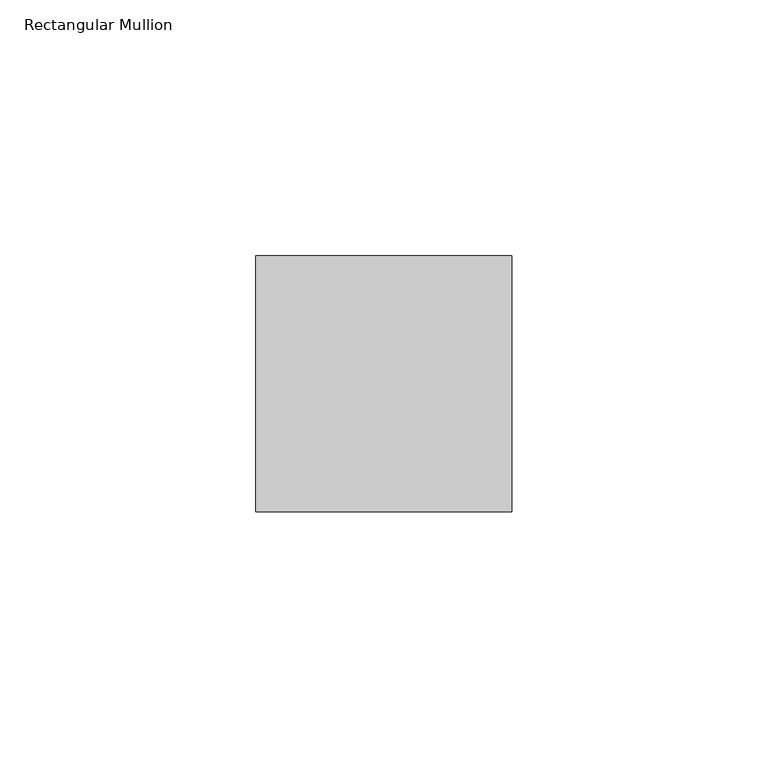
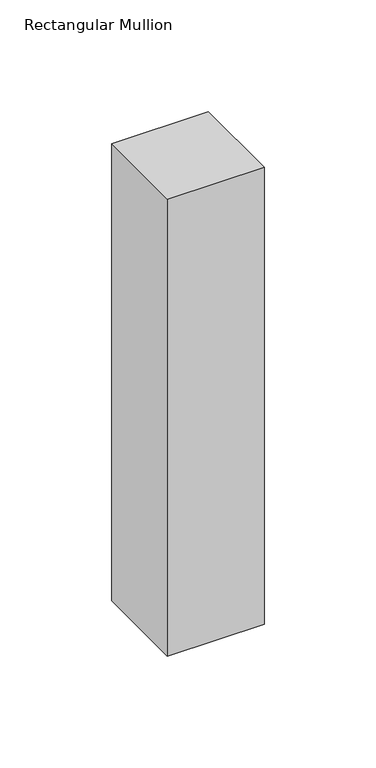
"""IFC4 building model written with IfcOpenShell, lengths in millimetres: member geometry, Rectangular Mullion : RSen_21_CWM_support profile 50x50 - right_gen_duco projects."""

from ifc_helpers import new_model, si_unit, frame, origin, place, context, project, spatial, polyline, outline, extrude, source, transform, mapped, element, save


def rectangular_mullion_b779000f(model_context):
    return source(origin(), model_context, "Body", "SweptSolid", [
        extrude(outline(polyline([(-50.0, 1.0), (0.0, 1.0), (0.0, -49.0), (-50.0, -49.0), (-50.0, 1.0)])), frame((0.0, 0.0, -250.0), z_axis=(0.0, 0.0, 1.0), x_axis=(1.0, 0.0, 0.0)), (0.0, 0.0, 1.0), 250.0),
    ])


if __name__ == "__main__":
    model = new_model("IFC4")
    model_context = context("Model", 3, world=origin())
    ifc_project = project(units=[si_unit("LENGTHUNIT", "METRE", prefix="MILLI")], contexts=[model_context])
    site = spatial("IfcSite", under=ifc_project)
    building = spatial("IfcBuilding", under=site)
    placement = place(None, origin())
    rectangular_mullion_shape = rectangular_mullion_b779000f(model_context)
    element("IfcMember", 1, ObjectType="Rectangular Mullion : RSen_21_CWM_support profile 50x50 - right_gen_duco projects", at=placement, inside=building, context=model_context, shape_type="MappedRepresentation", body=[
        mapped(rectangular_mullion_shape, transform((0.0, 0.0, 0.0), x_axis=(1.0, 0.0, 0.0), y_axis=(0.0, 1.0, 0.0), z_axis=(0.0, 0.0, 1.0))),
    ])
    save(model, "model.ifc")
